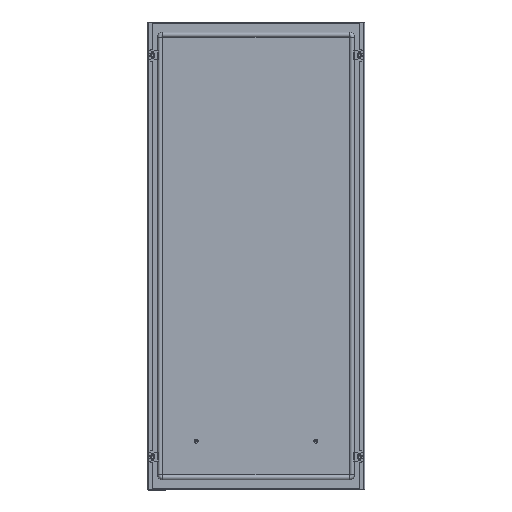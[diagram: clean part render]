
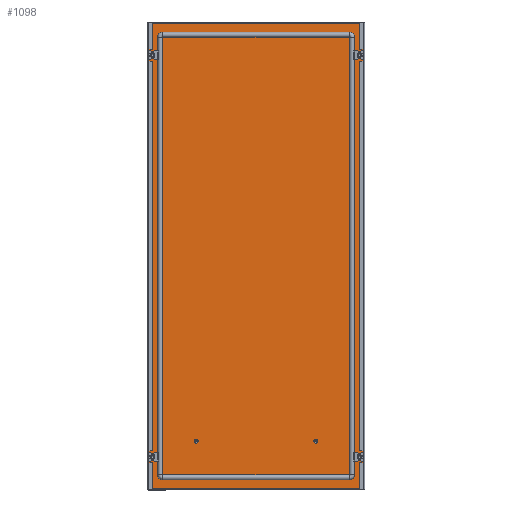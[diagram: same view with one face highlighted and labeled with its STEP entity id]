
A CAD part, top view. The second image highlights one B-rep face of the part: STEP entity #1098.
In plain terms, the highlighted planar face has unit normal (0, 0, 1).
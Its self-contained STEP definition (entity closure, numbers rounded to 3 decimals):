
#173 = EDGE_CURVE ( 'NONE', #3959, #6934, #948, .T. ) ;
#303 = CARTESIAN_POINT ( 'NONE',  ( -220.9, 478.4, 1.5 ) ) ;
#310 = EDGE_CURVE ( 'NONE', #1714, #3959, #762, .T. ) ;
#751 = DIRECTION ( 'NONE',  ( -1., 0., 0. ) ) ;
#755 = CARTESIAN_POINT ( 'NONE',  ( 221.5, -478.4, 1.5 ) ) ;
#762 = LINE ( 'NONE', #755, #1650 ) ;
#940 = DIRECTION ( 'NONE',  ( 0., 1., 0. ) ) ;
#941 = CARTESIAN_POINT ( 'NONE',  ( -220.9, -478.4, 1.5 ) ) ;
#948 = LINE ( 'NONE', #941, #3036 ) ;
#1098 = ADVANCED_FACE ( 'NONE', ( #5455, #5418, #5385, #5376, #5349 ), #5340, .T. ) ;
#1332 = DIRECTION ( 'NONE',  ( 0., -1., 0. ) ) ;
#1342 = DIRECTION ( 'NONE',  ( 0., 0., 1. ) ) ;
#1350 = CARTESIAN_POINT ( 'NONE',  ( -212.5, -412.5, 1.5 ) ) ;
#1650 = VECTOR ( 'NONE', #751, 1000. ) ;
#1692 = EDGE_LOOP ( 'NONE', ( #2961 ) ) ;
#1714 = VERTEX_POINT ( 'NONE', #2008 ) ;
#1739 = EDGE_LOOP ( 'NONE', ( #2955 ) ) ;
#1855 = EDGE_CURVE ( 'NONE', #6432, #6432, #4960, .T. ) ;
#2008 = CARTESIAN_POINT ( 'NONE',  ( 220.9, -478.4, 1.5 ) ) ;
#2148 = EDGE_CURVE ( 'NONE', #2846, #1714, #5977, .T. ) ;
#2329 = EDGE_CURVE ( 'NONE', #6349, #6349, #6001, .T. ) ;
#2846 = VERTEX_POINT ( 'NONE', #4689 ) ;
#2858 = ORIENTED_EDGE ( 'NONE', *, *, #2907, .F. ) ;
#2869 = ORIENTED_EDGE ( 'NONE', *, *, #173, .F. ) ;
#2883 = ORIENTED_EDGE ( 'NONE', *, *, #3923, .F. ) ;
#2893 = ORIENTED_EDGE ( 'NONE', *, *, #2148, .F. ) ;
#2907 = EDGE_CURVE ( 'NONE', #6197, #6197, #3628, .T. ) ;
#2922 = ORIENTED_EDGE ( 'NONE', *, *, #310, .F. ) ;
#2926 = ORIENTED_EDGE ( 'NONE', *, *, #2329, .T. ) ;
#2955 = ORIENTED_EDGE ( 'NONE', *, *, #1855, .F. ) ;
#2961 = ORIENTED_EDGE ( 'NONE', *, *, #5218, .T. ) ;
#2982 = VECTOR ( 'NONE', #4440, 1000. ) ;
#3036 = VECTOR ( 'NONE', #940, 1000. ) ;
#3255 = DIRECTION ( 'NONE',  ( 0., -1., 0. ) ) ;
#3274 = DIRECTION ( 'NONE',  ( 0., 0., -1. ) ) ;
#3294 = CARTESIAN_POINT ( 'NONE',  ( -212.5, 412.5, 1.5 ) ) ;
#3304 = EDGE_LOOP ( 'NONE', ( #2858 ) ) ;
#3624 = AXIS2_PLACEMENT_3D ( 'NONE', #4474, #4452, #4433 ) ;
#3628 = CIRCLE ( 'NONE', #3624, 4.75 ) ;
#3923 = EDGE_CURVE ( 'NONE', #6934, #2846, #4483, .T. ) ;
#3959 = VERTEX_POINT ( 'NONE', #4002 ) ;
#4002 = CARTESIAN_POINT ( 'NONE',  ( -220.9, -478.4, 1.5 ) ) ;
#4433 = DIRECTION ( 'NONE',  ( 0., -1., 0. ) ) ;
#4440 = DIRECTION ( 'NONE',  ( 1., 0., 0. ) ) ;
#4452 = DIRECTION ( 'NONE',  ( 0., 0., 1. ) ) ;
#4473 = CARTESIAN_POINT ( 'NONE',  ( -221.5, 478.4, 1.5 ) ) ;
#4474 = CARTESIAN_POINT ( 'NONE',  ( 212.5, 412.5, 1.5 ) ) ;
#4483 = LINE ( 'NONE', #4473, #2982 ) ;
#4689 = CARTESIAN_POINT ( 'NONE',  ( 220.9, 478.4, 1.5 ) ) ;
#4960 = CIRCLE ( 'NONE', #5409, 4.75 ) ;
#5218 = EDGE_CURVE ( 'NONE', #5648, #5648, #6823, .T. ) ;
#5296 = DIRECTION ( 'NONE',  ( 1., 0., 0. ) ) ;
#5306 = DIRECTION ( 'NONE',  ( 0., 0., 1. ) ) ;
#5325 = CARTESIAN_POINT ( 'NONE',  ( -221.5, 480.5, 1.5 ) ) ;
#5340 = PLANE ( 'NONE',  #5914 ) ;
#5349 = FACE_BOUND ( 'NONE', #3304, .T. ) ;
#5371 = EDGE_LOOP ( 'NONE', ( #2926 ) ) ;
#5376 = FACE_OUTER_BOUND ( 'NONE', #5911, .T. ) ;
#5385 = FACE_BOUND ( 'NONE', #5371, .T. ) ;
#5409 = AXIS2_PLACEMENT_3D ( 'NONE', #1350, #1342, #1332 ) ;
#5418 = FACE_BOUND ( 'NONE', #1739, .T. ) ;
#5455 = FACE_BOUND ( 'NONE', #1692, .T. ) ;
#5633 = CARTESIAN_POINT ( 'NONE',  ( 212.5, -417.25, 1.5 ) ) ;
#5648 = VERTEX_POINT ( 'NONE', #5633 ) ;
#5819 = DIRECTION ( 'NONE',  ( 0., -1., 0. ) ) ;
#5875 = DIRECTION ( 'NONE',  ( 0., -1., 0. ) ) ;
#5879 = DIRECTION ( 'NONE',  ( 0., 0., -1. ) ) ;
#5906 = AXIS2_PLACEMENT_3D ( 'NONE', #3294, #3274, #3255 ) ;
#5911 = EDGE_LOOP ( 'NONE', ( #2922, #2893, #2883, #2869 ) ) ;
#5914 = AXIS2_PLACEMENT_3D ( 'NONE', #5325, #5306, #5296 ) ;
#5916 = CARTESIAN_POINT ( 'NONE',  ( 212.5, -412.5, 1.5 ) ) ;
#5956 = CARTESIAN_POINT ( 'NONE',  ( 220.9, 478.4, 1.5 ) ) ;
#5977 = LINE ( 'NONE', #5956, #6618 ) ;
#6001 = CIRCLE ( 'NONE', #5906, 4.75 ) ;
#6191 = CARTESIAN_POINT ( 'NONE',  ( 212.5, 407.75, 1.5 ) ) ;
#6197 = VERTEX_POINT ( 'NONE', #6191 ) ;
#6342 = CARTESIAN_POINT ( 'NONE',  ( -212.5, 407.75, 1.5 ) ) ;
#6349 = VERTEX_POINT ( 'NONE', #6342 ) ;
#6426 = CARTESIAN_POINT ( 'NONE',  ( -212.5, -417.25, 1.5 ) ) ;
#6432 = VERTEX_POINT ( 'NONE', #6426 ) ;
#6618 = VECTOR ( 'NONE', #5819, 1000. ) ;
#6823 = CIRCLE ( 'NONE', #6942, 4.75 ) ;
#6934 = VERTEX_POINT ( 'NONE', #303 ) ;
#6942 = AXIS2_PLACEMENT_3D ( 'NONE', #5916, #5879, #5875 ) ;
